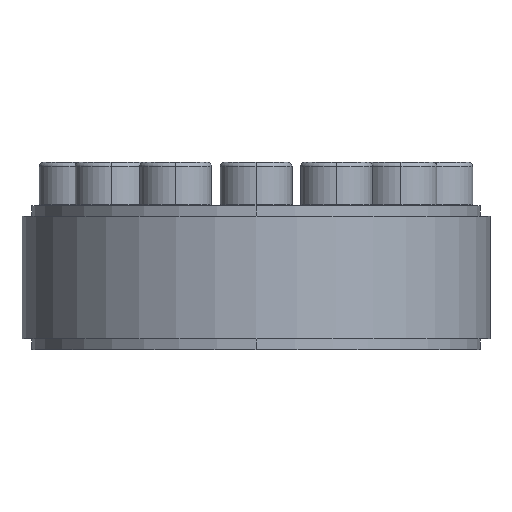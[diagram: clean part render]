
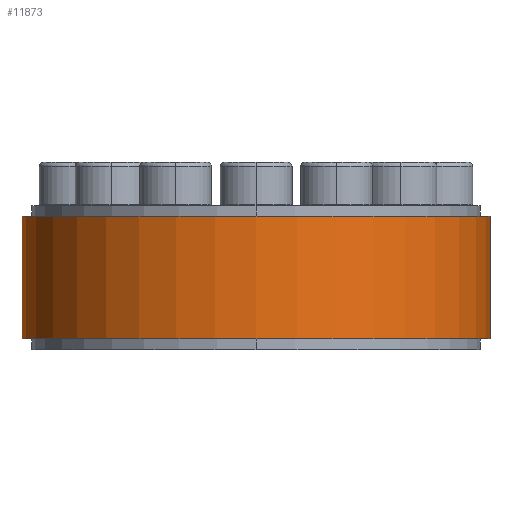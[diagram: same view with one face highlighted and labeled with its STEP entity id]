
A CAD part, left-side view. The second image highlights one B-rep face of the part: STEP entity #11873.
In plain terms, the highlighted cylindrical face has radius 32.5 mm (diameter 65 mm), a partial arc.
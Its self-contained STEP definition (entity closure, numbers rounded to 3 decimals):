
#11669=DIRECTION('',(0.,0.,1.));
#11670=VECTOR('',#11669,17.);
#11671=CARTESIAN_POINT('',(0.,32.5,-8.5));
#11672=LINE('',#11671,#11670);
#11676=DIRECTION('',(0.,0.,1.));
#11677=VECTOR('',#11676,17.);
#11678=CARTESIAN_POINT('',(0.,-32.5,-8.5));
#11679=LINE('',#11678,#11677);
#11683=CARTESIAN_POINT('',(0.,0.,-8.5));
#11684=DIRECTION('',(0.,0.,1.));
#11685=DIRECTION('',(0.,1.,0.));
#11686=AXIS2_PLACEMENT_3D('',#11683,#11684,#11685);
#11691=CARTESIAN_POINT('',(0.,0.,8.5));
#11692=DIRECTION('',(0.,0.,1.));
#11693=DIRECTION('',(0.,1.,0.));
#11694=AXIS2_PLACEMENT_3D('',#11691,#11692,#11693);
#11775=CARTESIAN_POINT('',(0.,32.5,-8.5));
#11776=CARTESIAN_POINT('',(0.,32.5,8.5));
#11777=VERTEX_POINT('',#11775);
#11778=VERTEX_POINT('',#11776);
#11779=CARTESIAN_POINT('',(0.,-32.5,-8.5));
#11780=CARTESIAN_POINT('',(0.,-32.5,8.5));
#11781=VERTEX_POINT('',#11779);
#11782=VERTEX_POINT('',#11780);
#11861=CARTESIAN_POINT('',(0.,0.,9.35));
#11862=DIRECTION('',(0.,0.,-1.));
#11863=DIRECTION('',(0.,-1.,0.));
#11864=AXIS2_PLACEMENT_3D('',#11861,#11862,#11863);
#11865=CYLINDRICAL_SURFACE('',#11864,32.5);
#11866=ORIENTED_EDGE('',*,*,#11844,.T.);
#11868=ORIENTED_EDGE('',*,*,#11867,.T.);
#11869=ORIENTED_EDGE('',*,*,#11847,.F.);
#11870=ORIENTED_EDGE('',*,*,#11822,.F.);
#11871=EDGE_LOOP('',(#11866,#11868,#11869,#11870));
#11872=FACE_OUTER_BOUND('',#11871,.F.);
#11873=ADVANCED_FACE('',(#11872),#11865,.T.);
#11687=CIRCLE('',#11686,32.5);
#11695=CIRCLE('',#11694,32.5);
#11822=EDGE_CURVE('',#11777,#11781,#11687,.T.);
#11844=EDGE_CURVE('',#11777,#11778,#11672,.T.);
#11847=EDGE_CURVE('',#11781,#11782,#11679,.T.);
#11867=EDGE_CURVE('',#11778,#11782,#11695,.T.);
